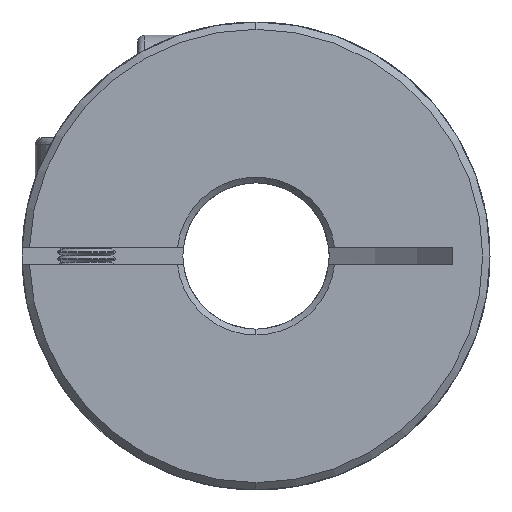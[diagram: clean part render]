
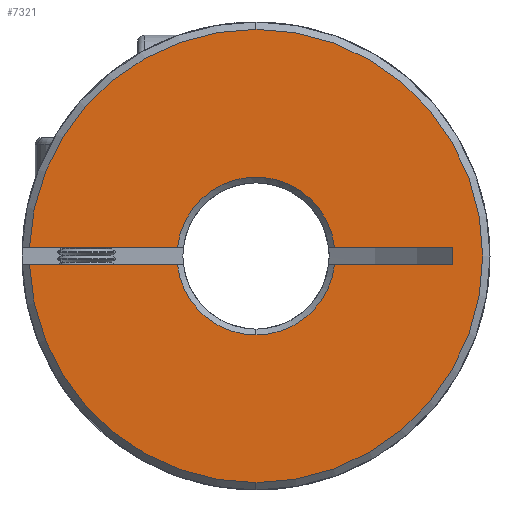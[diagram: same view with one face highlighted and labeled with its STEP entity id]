
A CAD part, front view. The second image highlights one B-rep face of the part: STEP entity #7321.
In plain terms, the highlighted planar face has unit normal (0, -1, 0).
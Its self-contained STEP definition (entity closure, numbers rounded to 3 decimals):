
#30 = AXIS2_PLACEMENT_3D ( 'NONE', #8130, #9756, #4597 ) ;
#57 = DIRECTION ( 'NONE',  ( 1., 0., 0. ) ) ;
#268 = VERTEX_POINT ( 'NONE', #999 ) ;
#371 = CARTESIAN_POINT ( 'NONE',  ( 0., 0., 15.5 ) ) ;
#444 = ORIENTED_EDGE ( 'NONE', *, *, #8929, .F. ) ;
#469 = EDGE_CURVE ( 'NONE', #5523, #1787, #3083, .T. ) ;
#692 = VECTOR ( 'NONE', #6221, 1000. ) ;
#748 = CARTESIAN_POINT ( 'NONE',  ( 13.436, 0., -0.6 ) ) ;
#774 = CARTESIAN_POINT ( 'NONE',  ( 0., 0., 0. ) ) ;
#999 = CARTESIAN_POINT ( 'NONE',  ( 5.367, 0., -0.6 ) ) ;
#1143 = CARTESIAN_POINT ( 'NONE',  ( -5.367, 0., -0.6 ) ) ;
#1400 = DIRECTION ( 'NONE',  ( 0., 0., -1. ) ) ;
#1486 = CARTESIAN_POINT ( 'NONE',  ( -50., 0., 0.6 ) ) ;
#1787 = VERTEX_POINT ( 'NONE', #748 ) ;
#1951 = CIRCLE ( 'NONE', #5356, 5.4 ) ;
#2017 = ORIENTED_EDGE ( 'NONE', *, *, #5753, .T. ) ;
#2035 = CARTESIAN_POINT ( 'NONE',  ( 5.367, 0., 0.6 ) ) ;
#2321 = DIRECTION ( 'NONE',  ( 0., -1., 0. ) ) ;
#2327 = ORIENTED_EDGE ( 'NONE', *, *, #6664, .T. ) ;
#2498 = VERTEX_POINT ( 'NONE', #9552 ) ;
#2566 = LINE ( 'NONE', #2632, #5393 ) ;
#2632 = CARTESIAN_POINT ( 'NONE',  ( -50., 0., 0.6 ) ) ;
#2633 = CARTESIAN_POINT ( 'NONE',  ( 0., 0., 0. ) ) ;
#2888 = AXIS2_PLACEMENT_3D ( 'NONE', #7601, #2321, #4023 ) ;
#2933 = EDGE_CURVE ( 'NONE', #5083, #10891, #3303, .T. ) ;
#3041 = LINE ( 'NONE', #1486, #7471 ) ;
#3083 = LINE ( 'NONE', #3981, #7250 ) ;
#3120 = DIRECTION ( 'NONE',  ( 0., 0., 1. ) ) ;
#3191 = DIRECTION ( 'NONE',  ( 0., -1., 0. ) ) ;
#3226 = EDGE_CURVE ( 'NONE', #10891, #10320, #4511, .T. ) ;
#3303 = CIRCLE ( 'NONE', #3651, 15.5 ) ;
#3404 = ORIENTED_EDGE ( 'NONE', *, *, #5063, .T. ) ;
#3471 = DIRECTION ( 'NONE',  ( 1., 0., 0. ) ) ;
#3508 = ORIENTED_EDGE ( 'NONE', *, *, #8637, .T. ) ;
#3559 = EDGE_LOOP ( 'NONE', ( #5724, #2017, #5389, #3964, #10509, #3508, #3404, #4466, #444, #2327, #9685 ) ) ;
#3616 = DIRECTION ( 'NONE',  ( 0., -1., 0. ) ) ;
#3651 = AXIS2_PLACEMENT_3D ( 'NONE', #2633, #3616, #8645 ) ;
#3964 = ORIENTED_EDGE ( 'NONE', *, *, #3226, .T. ) ;
#3981 = CARTESIAN_POINT ( 'NONE',  ( 13.436, 0., -0.6 ) ) ;
#4023 = DIRECTION ( 'NONE',  ( 0., 0., 1. ) ) ;
#4333 = DIRECTION ( 'NONE',  ( 1., 0., 0. ) ) ;
#4466 = ORIENTED_EDGE ( 'NONE', *, *, #469, .T. ) ;
#4511 = CIRCLE ( 'NONE', #2888, 15.5 ) ;
#4527 = PLANE ( 'NONE',  #30 ) ;
#4597 = DIRECTION ( 'NONE',  ( 0., 0., 1. ) ) ;
#4908 = EDGE_CURVE ( 'NONE', #2498, #8498, #10742, .T. ) ;
#5063 = EDGE_CURVE ( 'NONE', #10574, #5523, #3041, .T. ) ;
#5083 = VERTEX_POINT ( 'NONE', #6495 ) ;
#5191 = CARTESIAN_POINT ( 'NONE',  ( -15.488, 0., 0.6 ) ) ;
#5356 = AXIS2_PLACEMENT_3D ( 'NONE', #9548, #10422, #6047 ) ;
#5389 = ORIENTED_EDGE ( 'NONE', *, *, #2933, .T. ) ;
#5393 = VECTOR ( 'NONE', #3471, 1000. ) ;
#5523 = VERTEX_POINT ( 'NONE', #9718 ) ;
#5724 = ORIENTED_EDGE ( 'NONE', *, *, #4908, .F. ) ;
#5753 = EDGE_CURVE ( 'NONE', #2498, #5083, #7739, .T. ) ;
#6047 = DIRECTION ( 'NONE',  ( 0., 0., 1. ) ) ;
#6144 = CARTESIAN_POINT ( 'NONE',  ( -5.367, 0., 0.6 ) ) ;
#6221 = DIRECTION ( 'NONE',  ( 1., 0., 0. ) ) ;
#6365 = CARTESIAN_POINT ( 'NONE',  ( -50., 0., -0.6 ) ) ;
#6454 = DIRECTION ( 'NONE',  ( 0., 1., 0. ) ) ;
#6495 = CARTESIAN_POINT ( 'NONE',  ( 0., 0., -15.5 ) ) ;
#6616 = CARTESIAN_POINT ( 'NONE',  ( 0., 0., 0. ) ) ;
#6664 = EDGE_CURVE ( 'NONE', #268, #10501, #1951, .T. ) ;
#7082 = EDGE_CURVE ( 'NONE', #10501, #8498, #9329, .T. ) ;
#7214 = VERTEX_POINT ( 'NONE', #6144 ) ;
#7250 = VECTOR ( 'NONE', #1400, 1000. ) ;
#7321 = ADVANCED_FACE ( 'NONE', ( #9739 ), #4527, .F. ) ;
#7471 = VECTOR ( 'NONE', #4333, 1000. ) ;
#7601 = CARTESIAN_POINT ( 'NONE',  ( 0., 0., 0. ) ) ;
#7678 = CARTESIAN_POINT ( 'NONE',  ( -50., 0., -0.6 ) ) ;
#7717 = DIRECTION ( 'NONE',  ( 0., 1., 0. ) ) ;
#7739 = CIRCLE ( 'NONE', #8874, 15.5 ) ;
#7966 = AXIS2_PLACEMENT_3D ( 'NONE', #10736, #6454, #10772 ) ;
#8088 = LINE ( 'NONE', #6365, #692 ) ;
#8130 = CARTESIAN_POINT ( 'NONE',  ( -50., 0., -18.413 ) ) ;
#8438 = VECTOR ( 'NONE', #57, 1000. ) ;
#8496 = CIRCLE ( 'NONE', #7966, 5.4 ) ;
#8498 = VERTEX_POINT ( 'NONE', #1143 ) ;
#8637 = EDGE_CURVE ( 'NONE', #7214, #10574, #8496, .T. ) ;
#8645 = DIRECTION ( 'NONE',  ( 0., 0., 1. ) ) ;
#8874 = AXIS2_PLACEMENT_3D ( 'NONE', #6616, #3191, #3120 ) ;
#8887 = AXIS2_PLACEMENT_3D ( 'NONE', #774, #7717, #9498 ) ;
#8911 = CARTESIAN_POINT ( 'NONE',  ( 0., 0., -5.4 ) ) ;
#8929 = EDGE_CURVE ( 'NONE', #268, #1787, #8088, .T. ) ;
#9316 = EDGE_CURVE ( 'NONE', #10320, #7214, #2566, .T. ) ;
#9329 = CIRCLE ( 'NONE', #8887, 5.4 ) ;
#9498 = DIRECTION ( 'NONE',  ( 0., 0., 1. ) ) ;
#9548 = CARTESIAN_POINT ( 'NONE',  ( 0., 0., 0. ) ) ;
#9552 = CARTESIAN_POINT ( 'NONE',  ( -15.488, 0., -0.6 ) ) ;
#9685 = ORIENTED_EDGE ( 'NONE', *, *, #7082, .T. ) ;
#9718 = CARTESIAN_POINT ( 'NONE',  ( 13.436, 0., 0.6 ) ) ;
#9739 = FACE_OUTER_BOUND ( 'NONE', #3559, .T. ) ;
#9756 = DIRECTION ( 'NONE',  ( 0., 1., 0. ) ) ;
#10320 = VERTEX_POINT ( 'NONE', #5191 ) ;
#10422 = DIRECTION ( 'NONE',  ( 0., 1., 0. ) ) ;
#10501 = VERTEX_POINT ( 'NONE', #8911 ) ;
#10509 = ORIENTED_EDGE ( 'NONE', *, *, #9316, .T. ) ;
#10574 = VERTEX_POINT ( 'NONE', #2035 ) ;
#10736 = CARTESIAN_POINT ( 'NONE',  ( 0., 0., 0. ) ) ;
#10742 = LINE ( 'NONE', #7678, #8438 ) ;
#10772 = DIRECTION ( 'NONE',  ( 0., 0., 1. ) ) ;
#10891 = VERTEX_POINT ( 'NONE', #371 ) ;
